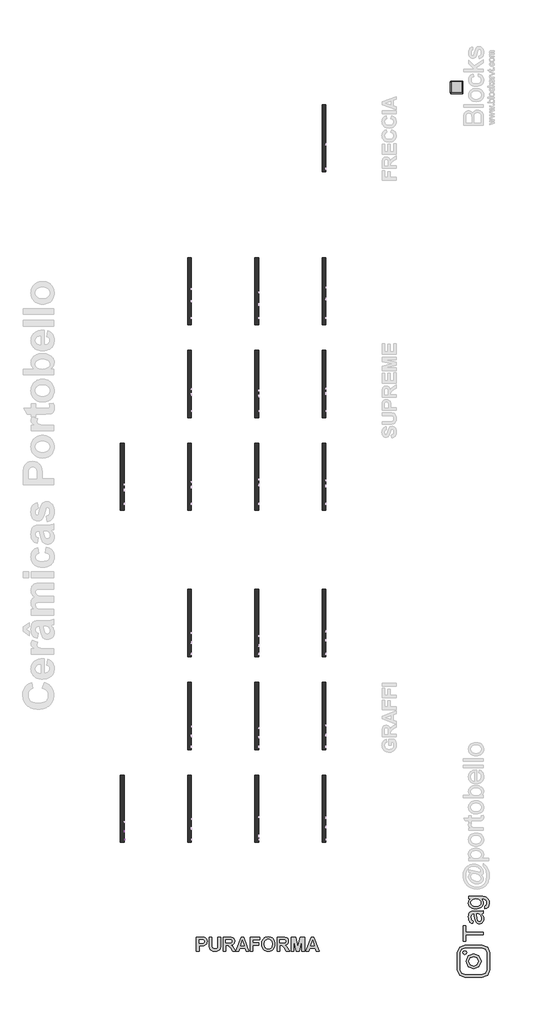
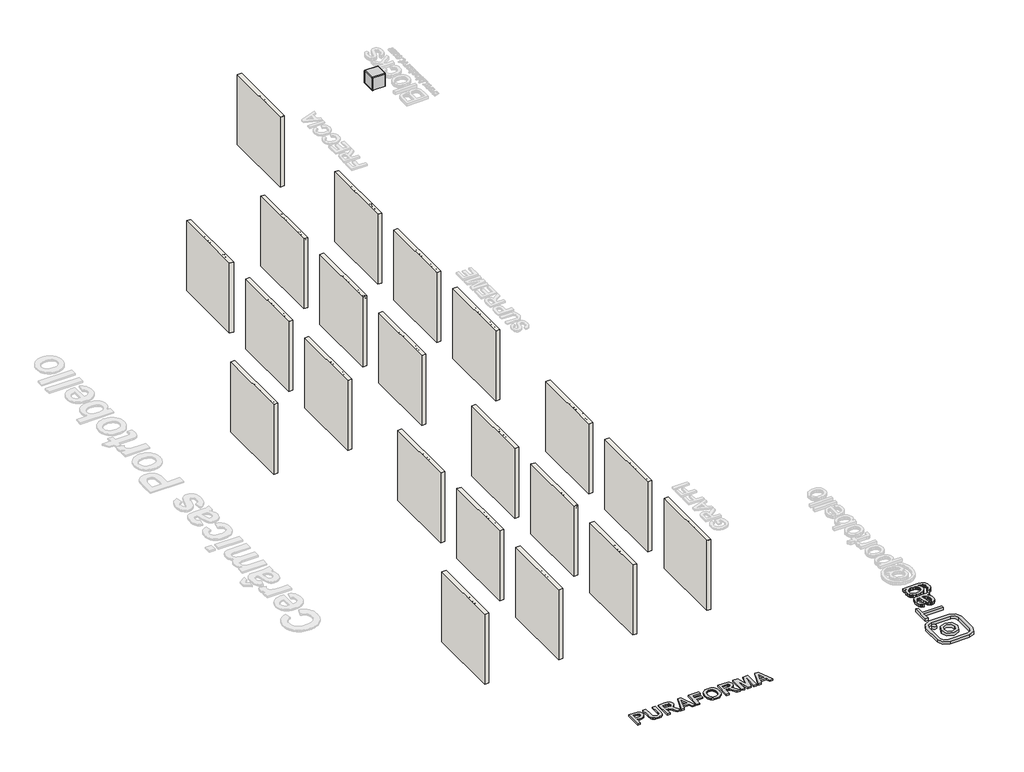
# One storey, part 1 of 17: 21 walls, 5 proxies, 1 furniture element.
"""IFC4 building model written with IfcOpenShell, lengths in millimetres."""

from ifc_helpers import new_model, si_unit, frame, origin, origin_with_axes, place, context, project, spatial, polyline, outline, extrude, transform, mapped, element, save
from components import generic_models_d67f6705, branco_22256ad2

model = new_model("IFC4")

# Units and contexts
model_context = context("Model", 3, world=origin())
ifc_project = project(units=[si_unit("LENGTHUNIT", "METRE", prefix="MILLI")], contexts=[model_context])

# Site, building, storey
site = spatial("IfcSite", under=ifc_project)
building = spatial("IfcBuilding", under=site)
storey = spatial("IfcBuildingStorey", under=building, Name="PORTOBELLO - SHOWROOM", Elevation=0.0)

# Proxies
placement = place(None, origin())
generic_models_shape = generic_models_d67f6705(model_context)
element("IfcBuildingElementProxy", 1, Name="Blks_Instagram1 : Único", ObjectType="Blks_Instagram1 : Único", at=placement, inside=storey, context=model_context, shape_type="MappedRepresentation", body=[
    mapped(generic_models_shape, transform((-1683.1200562, -12511.2406298, 0.0), x_axis=(-1.0, 0.0, 0.0), y_axis=(0.0, -1.0, 0.0), z_axis=(0.0, 0.0, 1.0))),
])
element("IfcBuildingElementProxy", 2, Name="10mm Arial", ObjectType="10mm Arial", at=placement, inside=storey, context=model_context, shape_type="SweptSolid", body=[
    extrude(outline(polyline([(-7644.9270675, 2518.4745677), (-7644.9270675, 2618.9308778), (-7607.6974096, 2618.9308778), (-7592.6878242, 2617.9743846), (-7580.4864047, 2613.2777578), (-7572.5769418, 2603.5656731), (-7569.5848349, 2589.8682002), (-7571.6051202, 2578.0285313), (-7577.6659761, 2568.1631625), (-7588.9998072, 2561.5044984), (-7606.8390183, 2559.2849437), (-7632.3700287, 2559.2849437), (-7632.3700287, 2518.4745677), (-7644.9270675, 2518.4745677)]), holes=[polyline([(-7632.3700287, 2571.8419824), (-7606.1032543, 2571.8419824), (-7587.6110527, 2576.4527701), (-7583.5091684, 2582.0016569), (-7582.1418737, 2589.4267418), (-7585.3669725, 2599.8255395), (-7593.8405211, 2605.5154477), (-7606.3975599, 2606.373839), (-7632.3700287, 2606.373839), (-7632.3700287, 2571.8419824)])]), frame((-15722.2794626, 0.0, 0.0), z_axis=(1.0, 0.0, 0.0), x_axis=(0.0, 1.0, 0.0)), (0.0, 0.0, 1.0), 20.0),
    extrude(outline(polyline([(-15702.2794626, -7541.3314977), (-15702.2794626, -7553.8885364), (-15722.2794626, -7553.8885364), (-15722.2794626, -7541.3314977), (-15702.2794626, -7541.3314977)])), frame((0.0, 0.0, 2518.4745677), z_axis=(0.0, 0.0, 1.0), x_axis=(1.0, 0.0, 0.0)), (0.0, 0.0, 1.0), 73.7726028),
    extrude(outline(polyline([(-15702.2794626, -7541.3314977), (-15702.2794626, -7553.8885364), (-15722.2794626, -7553.8885364), (-15722.2794626, -7541.3314977), (-15702.2794626, -7541.3314977)])), frame((0.0, 0.0, 2606.373839), z_axis=(0.0, 0.0, 1.0), x_axis=(1.0, 0.0, 0.0)), (0.0, 0.0, 1.0), 12.5570388),
    extrude(outline(polyline([(-7522.4959395, 2518.4745677), (-7522.4959395, 2592.2471704), (-7509.9389008, 2592.2471704), (-7509.9389008, 2581.9464746), (-7500.3371807, 2590.8492188), (-7487.2283189, 2593.8168003), (-7475.3702559, 2591.4255673), (-7467.276852, 2585.1470479), (-7463.512193, 2575.9132098), (-7462.8500054, 2563.773104), (-7462.8500054, 2518.4745677), (-7475.4070441, 2518.4745677), (-7475.4070441, 2562.0808468), (-7476.8540467, 2573.1908831), (-7481.9676064, 2579.0647323), (-7490.5883078, 2581.2597615), (-7504.2122044, 2576.3301428), (-7508.5072267, 2569.1871007), (-7509.9389008, 2557.6172119), (-7509.9389008, 2518.4745677), (-7522.4959395, 2518.4745677)])), frame((-15722.2794626, 0.0, 0.0), z_axis=(1.0, 0.0, 0.0), x_axis=(0.0, 1.0, 0.0)), (0.0, 0.0, 1.0), 20.0),
    extrude(outline(polyline([(-7393.9334449, 2540.4493855), (-7381.6216608, 2538.8797557), (-7386.0577046, 2529.602998), (-7393.1363673, 2522.6684224), (-7402.6982335, 2518.345809), (-7414.5838876, 2516.9049378), (-7429.3175615, 2519.391207), (-7440.6544583, 2526.8500144), (-7447.8833395, 2538.7969822), (-7450.2929666, 2554.7477324), (-7447.8588141, 2571.2349771), (-7440.5563565, 2583.5651553), (-7429.3727438, 2591.253889), (-7415.2951261, 2593.8168003), (-7401.6559012, 2591.2600204), (-7390.757397, 2583.5896808), (-7383.6112893, 2571.2840281), (-7381.2292534, 2554.8213088), (-7381.3028298, 2551.4367944), (-7437.7359278, 2551.4367944), (-7435.5623584, 2542.0374095), (-7430.513178, 2535.1273593), (-7423.2260488, 2530.8783223), (-7414.3386329, 2529.4619766), (-7402.0268488, 2532.0862015), (-7393.9334449, 2540.4493855)]), holes=[polyline([(-7437.7359278, 2563.9938332), (-7393.7862921, 2563.9938332), (-7398.8140127, 2575.3736496), (-7406.1348644, 2579.7882335), (-7415.3441771, 2581.2597615), (-7430.8074836, 2576.5631347), (-7435.672723, 2571.0724959), (-7437.7359278, 2563.9938332)])]), frame((-15722.2794626, 0.0, 0.0), z_axis=(1.0, 0.0, 0.0), x_axis=(0.0, 1.0, 0.0)), (0.0, 0.0, 1.0), 20.0),
    extrude(outline(polyline([(-7280.7729432, 2557.7153138), (-7280.7729432, 2570.2723526), (-7239.9625672, 2570.2723526), (-7239.9625672, 2532.7238636), (-7260.1102378, 2520.8780634), (-7281.4106053, 2516.9049378), (-7295.4974201, 2518.4837647), (-7308.2292028, 2523.2202454), (-7318.8058102, 2530.948833), (-7326.4270988, 2541.5039806), (-7331.0348208, 2554.1652526), (-7332.5707281, 2568.2122134), (-7331.0409522, 2582.3603418), (-7326.4516243, 2595.5213202), (-7318.9928168, 2606.5608457), (-7308.8546022, 2614.3446156), (-7296.5060299, 2618.9615346), (-7282.4161495, 2620.5005077), (-7262.7712509, 2616.9320523), (-7249.0002016, 2606.9992384), (-7241.4095697, 2590.383235), (-7252.9855899, 2587.121348), (-7258.7122862, 2598.7341563), (-7268.4979473, 2605.4296086), (-7282.6123532, 2607.9434689), (-7298.6887964, 2605.2334049), (-7309.6271544, 2598.1210196), (-7316.0896148, 2588.4457231), (-7320.0136894, 2568.7272482), (-7315.2925371, 2546.8382695), (-7301.558276, 2533.7416705), (-7282.4161495, 2529.4619766), (-7265.2360603, 2532.6870754), (-7252.519606, 2539.5664687), (-7252.519606, 2557.7153138), (-7280.7729432, 2557.7153138)])), frame((-15722.2794626, 0.0, 0.0), z_axis=(1.0, 0.0, 0.0), x_axis=(0.0, 1.0, 0.0)), (0.0, 0.0, 1.0), 20.0),
    extrude(outline(polyline([(-7221.1270091, 2518.4745677), (-7221.1270091, 2592.2471704), (-7210.1396001, 2592.2471704), (-7210.1396001, 2581.3333379), (-7202.3405019, 2591.3887791), (-7194.4923526, 2593.8168003), (-7181.8862629, 2589.9417766), (-7186.0801177, 2578.6845875), (-7194.9092855, 2581.2597615), (-7202.0094081, 2578.7826894), (-7206.5343566, 2571.9155588), (-7208.5699703, 2557.24933), (-7208.5699703, 2518.4745677), (-7221.1270091, 2518.4745677)])), frame((-15722.2794626, 0.0, 0.0), z_axis=(1.0, 0.0, 0.0), x_axis=(0.0, 1.0, 0.0)), (0.0, 0.0, 1.0), 20.0),
    extrude(outline(polyline([(-7126.9492183, 2527.8923467), (-7139.1261123, 2519.3820099), (-7152.5783306, 2516.9049378), (-7163.0721646, 2518.3948599), (-7170.8130149, 2522.8646261), (-7175.5862838, 2529.6520489), (-7177.1773734, 2538.0949407), (-7174.7738777, 2548.0277546), (-7168.4585701, 2555.2382417), (-7159.6661904, 2559.3585201), (-7148.8014088, 2561.246981), (-7127.0227947, 2565.563463), (-7126.9492183, 2568.3593662), (-7130.4073091, 2577.6299925), (-7144.288723, 2581.2597615), (-7156.9929146, 2578.8440031), (-7163.0507048, 2570.2723526), (-7175.6077435, 2571.8419824), (-7170.1753527, 2584.1047156), (-7159.2369948, 2591.2906772), (-7142.6700422, 2593.8168003), (-7127.4519904, 2591.5849828), (-7118.8558144, 2585.9809138), (-7115.0053162, 2577.4583142), (-7114.3921795, 2566.4709053), (-7114.3921795, 2550.8481832), (-7113.7545174, 2529.0327809), (-7111.2529198, 2518.4745677), (-7123.8099586, 2518.4745677), (-7126.9492183, 2527.8923467)]), holes=[polyline([(-7126.9492183, 2553.0064243), (-7147.2072535, 2549.1559261), (-7158.0107214, 2547.1203124), (-7162.903552, 2543.8093744), (-7164.6203346, 2538.9778575), (-7160.880201, 2532.1843033), (-7149.9050548, 2529.4619766), (-7137.2008632, 2532.4663462), (-7129.0093575, 2539.738147), (-7127.0227947, 2549.4502317), (-7126.9492183, 2553.0064243)])]), frame((-15722.2794626, 0.0, 0.0), z_axis=(1.0, 0.0, 0.0), x_axis=(0.0, 1.0, 0.0)), (0.0, 0.0, 1.0), 20.0),
    extrude(outline(polyline([(-7093.9869915, 2518.4745677), (-7093.9869915, 2579.6901317), (-7104.9744005, 2579.6901317), (-7104.9744005, 2592.2471704), (-7093.9869915, 2592.2471704), (-7093.9869915, 2599.6783867), (-7092.6626164, 2610.1507609), (-7086.2369442, 2617.6310281), (-7073.5818035, 2620.5005077), (-7062.1284108, 2619.1270815), (-7063.9678207, 2607.3548577), (-7071.2028333, 2607.9434689), (-7079.1122962, 2605.8588043), (-7081.4299528, 2598.0842314), (-7081.4299528, 2592.2471704), (-7067.3032842, 2592.2471704), (-7067.3032842, 2579.6901317), (-7081.4299528, 2579.6901317), (-7081.4299528, 2518.4745677), (-7093.9869915, 2518.4745677)])), frame((-15722.2794626, 0.0, 0.0), z_axis=(1.0, 0.0, 0.0), x_axis=(0.0, 1.0, 0.0)), (0.0, 0.0, 1.0), 20.0),
    extrude(outline(polyline([(-7053.1766155, 2518.4745677), (-7053.1766155, 2579.6901317), (-7064.1640245, 2579.6901317), (-7064.1640245, 2592.2471704), (-7053.1766155, 2592.2471704), (-7053.1766155, 2599.6783867), (-7051.8522404, 2610.1507609), (-7045.4265682, 2617.6310281), (-7032.7714275, 2620.5005077), (-7021.3180348, 2619.1270815), (-7023.1574447, 2607.3548577), (-7030.3924573, 2607.9434689), (-7038.3019202, 2605.8588043), (-7040.6195768, 2598.0842314), (-7040.6195768, 2592.2471704), (-7026.4929082, 2592.2471704), (-7026.4929082, 2579.6901317), (-7040.6195768, 2579.6901317), (-7040.6195768, 2518.4745677), (-7053.1766155, 2518.4745677)])), frame((-15722.2794626, 0.0, 0.0), z_axis=(1.0, 0.0, 0.0), x_axis=(0.0, 1.0, 0.0)), (0.0, 0.0, 1.0), 20.0),
    extrude(outline(polyline([(-15702.2794626, -7002.9484605), (-15702.2794626, -7015.5054992), (-15722.2794626, -7015.5054992), (-15722.2794626, -7002.9484605), (-15702.2794626, -7002.9484605)])), frame((0.0, 0.0, 2606.373839), z_axis=(0.0, 0.0, 1.0), x_axis=(1.0, 0.0, 0.0)), (0.0, 0.0, 1.0), 12.5570388),
    extrude(outline(polyline([(-15702.2794626, -7002.9484605), (-15702.2794626, -7015.5054992), (-15722.2794626, -7015.5054992), (-15722.2794626, -7002.9484605), (-15702.2794626, -7002.9484605)])), frame((0.0, 0.0, 2518.4745677), z_axis=(0.0, 0.0, 1.0), x_axis=(1.0, 0.0, 0.0)), (0.0, 0.0, 1.0), 73.7726028),
])
element("IfcBuildingElementProxy", 3, Name="10mm Arial", ObjectType="10mm Arial", at=placement, inside=storey, context=model_context, shape_type="SweptSolid", body=[
    extrude(outline(polyline([(-7608.8255811, 2393.4745677), (-7608.8255811, 2417.0190154), (-7654.3448466, 2417.0190154), (-7654.3448466, 2429.5760541), (-7605.6863214, 2492.361248), (-7596.2685423, 2492.361248), (-7596.2685423, 2429.5760541), (-7583.7115035, 2429.5760541), (-7583.7115035, 2417.0190154), (-7596.2685423, 2417.0190154), (-7596.2685423, 2393.4745677), (-7608.8255811, 2393.4745677)]), holes=[polyline([(-7608.8255811, 2429.5760541), (-7608.8255811, 2468.3753419), (-7638.8938028, 2429.5760541), (-7608.8255811, 2429.5760541)])]), frame((-15722.2794626, 0.0, 0.0), z_axis=(1.0, 0.0, 0.0), x_axis=(0.0, 1.0, 0.0)), (0.0, 0.0, 1.0), 20.0),
    extrude(outline(polyline([(-7572.7240946, 2420.158275), (-7560.1670558, 2421.7279049), (-7553.8394855, 2408.7907214), (-7540.718361, 2404.4619766), (-7531.7175149, 2405.9672271), (-7524.9730116, 2410.4829786), (-7520.7607628, 2417.4880649), (-7519.3566798, 2426.4613199), (-7524.6173924, 2441.3728034), (-7531.2239399, 2445.4746877), (-7540.5221573, 2446.8419824), (-7551.5463544, 2444.6592159), (-7558.597426, 2438.9938332), (-7571.1544648, 2440.563463), (-7560.1670558, 2492.361248), (-7511.5085306, 2492.361248), (-7511.5085306, 2479.8042092), (-7550.0135128, 2479.8042092), (-7555.4091154, 2452.1394832), (-7546.438926, 2457.5841367), (-7537.0395411, 2459.3990212), (-7525.3041054, 2457.1488097), (-7515.5552325, 2450.3981751), (-7508.9885389, 2440.1097419), (-7506.7996411, 2427.2461348), (-7508.7678097, 2414.6890961), (-7514.6723158, 2403.9469418), (-7525.9785557, 2394.9154388), (-7540.7674119, 2391.9049378), (-7553.1006558, 2393.839384), (-7562.9261708, 2399.6427224), (-7569.661477, 2408.6405029), (-7572.7240946, 2420.158275)])), frame((-15722.2794626, 0.0, 0.0), z_axis=(1.0, 0.0, 0.0), x_axis=(0.0, 1.0, 0.0)), (0.0, 0.0, 1.0), 20.0),
    extrude(outline(polyline([(-7500.5211217, 2393.4745677), (-7473.6902615, 2430.5815982), (-7498.9514918, 2467.2471704), (-7483.8928555, 2467.2471704), (-7471.7036987, 2449.5643092), (-7465.9892651, 2441.2501761), (-7461.0351209, 2448.0682557), (-7447.1537069, 2467.2471704), (-7432.0460196, 2467.2471704), (-7458.5825742, 2430.5570728), (-7433.0270383, 2393.4745677), (-7448.1102001, 2393.4745677), (-7463.512193, 2415.792742), (-7466.3080961, 2419.8884949), (-7485.4134344, 2393.4745677), (-7500.5211217, 2393.4745677)])), frame((-15722.2794626, 0.0, 0.0), z_axis=(1.0, 0.0, 0.0), x_axis=(0.0, 1.0, 0.0)), (0.0, 0.0, 1.0), 20.0),
    extrude(outline(polyline([(-7378.0899937, 2393.4745677), (-7390.6470324, 2393.4745677), (-7390.6470324, 2471.7598562), (-7402.5418836, 2463.2863076), (-7415.76111, 2456.9464746), (-7415.76111, 2468.8168003), (-7397.3547475, 2480.5644987), (-7386.1833976, 2493.9308778), (-7378.0899937, 2493.9308778), (-7378.0899937, 2393.4745677)])), frame((-15722.2794626, 0.0, 0.0), z_axis=(1.0, 0.0, 0.0), x_axis=(0.0, 1.0, 0.0)), (0.0, 0.0, 1.0), 20.0),
    extrude(outline(polyline([(-7283.9122029, 2406.0316064), (-7283.9122029, 2393.4745677), (-7349.8366565, 2393.4745677), (-7348.4877558, 2402.1320573), (-7340.848073, 2415.4616482), (-7325.1149864, 2430.0175125), (-7303.4467369, 2450.9377353), (-7298.0388715, 2465.1625058), (-7303.1524313, 2476.6772122), (-7316.5065477, 2481.373839), (-7330.4247498, 2476.7875768), (-7335.7099878, 2464.1079107), (-7348.2670266, 2465.6775406), (-7345.2228031, 2477.8237778), (-7338.6407811, 2486.6958652), (-7328.864317, 2492.1221247), (-7316.2367676, 2493.9308778), (-7303.5172476, 2491.9197896), (-7293.7591777, 2485.8865249), (-7287.551169, 2476.873416), (-7285.4818328, 2465.9227952), (-7287.7136502, 2454.0156813), (-7295.1326038, 2441.7038972), (-7313.1220333, 2424.4992826), (-7327.567533, 2412.4204904), (-7333.2329157, 2406.0316064), (-7283.9122029, 2406.0316064)])), frame((-15722.2794626, 0.0, 0.0), z_axis=(1.0, 0.0, 0.0), x_axis=(0.0, 1.0, 0.0)), (0.0, 0.0, 1.0), 20.0),
    extrude(outline(polyline([(-7271.3551641, 2442.8933823), (-7267.6640815, 2471.7966444), (-7256.701198, 2488.4616988), (-7238.3929374, 2493.9308778), (-7223.7267085, 2490.6935163), (-7213.5976909, 2481.3615763), (-7207.711579, 2466.4991437), (-7205.4307106, 2442.8933823), (-7209.0850051, 2414.1127476), (-7220.0111004, 2397.410905), (-7228.24246, 2393.2814296), (-7238.3929374, 2391.9049378), (-7251.4404855, 2394.2961708), (-7261.3487739, 2401.4698697), (-7268.8535666, 2418.4598865), (-7271.3551641, 2442.8933823)]), holes=[polyline([(-7258.7981254, 2442.9179078), (-7257.3265974, 2423.1657104), (-7252.9120135, 2411.7337774), (-7246.3391885, 2406.2799268), (-7238.3929374, 2404.4619766), (-7230.4466863, 2406.2860581), (-7223.8738613, 2411.7583028), (-7219.4592774, 2423.1963672), (-7217.9877494, 2442.9179078), (-7219.4102264, 2462.2255812), (-7223.6776576, 2473.746419), (-7230.2382198, 2479.466984), (-7238.5400902, 2481.373839), (-7246.4005021, 2479.6938446), (-7252.7158097, 2474.6538613), (-7257.2775465, 2462.4156536), (-7258.7981254, 2442.9179078)])]), frame((-15722.2794626, 0.0, 0.0), z_axis=(1.0, 0.0, 0.0), x_axis=(0.0, 1.0, 0.0)), (0.0, 0.0, 1.0), 20.0),
])
element("IfcBuildingElementProxy", 4, Name="550mm Arial", ObjectType="550mm Arial", at=placement, inside=storey, context=model_context, shape_type="SweptSolid", body=[
    extrude(outline(polyline([(-12817.5916958, -12102.6873012), (-12817.5916958, -11541.5446312), (-12636.8068921, -11541.5446312), (-12551.8770026, -11543.6322156), (-12502.7839776, -11549.8949686), (-12479.7553129, -11558.0061035), (-12458.6837585, -11569.8140025), (-12439.5693144, -11585.3186653), (-12422.4119806, -11604.5200921), (-12408.2555493, -11627.0964469), (-12398.1438127, -11652.7258937), (-12392.0767707, -11681.4084327), (-12390.0544234, -11713.1440638), (-12394.8036778, -11760.4104525), (-12409.0514409, -11799.5004692), (-12430.6231457, -11830.7446481), (-12457.3442252, -11854.4735234), (-12486.8661471, -11871.0872155), (-12516.8403788, -11880.9858445), (-12567.1163683, -11886.9354599), (-12635.8326861, -11888.918665), (-12710.7073777, -11888.918665), (-12710.7073777, -12102.6873012), (-12817.5916958, -12102.6873012)]), holes=[polyline([(-12710.7073777, -11639.5219228), (-12710.7073777, -11790.9413734), (-12644.3221957, -11790.9413734), (-12584.530301, -11788.8537891), (-12548.5020746, -11782.5910361), (-12526.9651629, -11771.8573733), (-12510.647212, -11756.3570596), (-12500.3658591, -11737.0295079), (-12496.9387415, -11714.8141312), (-12501.757582, -11688.2670171), (-12516.2141035, -11666.7996915), (-12538.0119633, -11651.4211535), (-12564.8548186, -11643.1404023), (-12652.1158439, -11639.5219228), (-12710.7073777, -11639.5219228)])]), origin_with_axes(), (0.0, 0.0, 1.0), 50.0),
    extrude(outline(polyline([(-12300.9841583, -11541.5446312), (-12194.0998402, -11541.5446312), (-12194.0998402, -11844.2443602), (-12192.9516688, -11903.6709277), (-12189.5071547, -11937.7681385), (-12176.1118218, -11968.6469902), (-12151.7914643, -11992.8107789), (-12135.5344013, -12001.9135164), (-12116.5460821, -12008.4154718), (-12070.3756751, -12013.6170361), (-12024.2574578, -12008.7112129), (-12006.0650301, -12002.5789339), (-11991.1170565, -11993.9937433), (-11969.7715066, -11972.1262974), (-11959.0378438, -11945.7705451), (-11954.9670543, -11907.7243206), (-11953.6101245, -11850.7854578), (-11953.6101245, -11541.5446312), (-11846.7258064, -11541.5446312), (-11846.7258064, -11835.8940228), (-11849.0569423, -11922.0764629), (-11856.0503498, -11978.5456192), (-11869.3065104, -12016.9397745), (-11890.4259052, -12048.8972114), (-11919.7042756, -12074.6962745), (-11957.4373625, -12094.6153084), (-12005.8171295, -12107.3495729), (-12067.0355402, -12111.5943277), (-12138.7440622, -12106.9668491), (-12167.2134936, -12101.1825008), (-12190.7597053, -12093.0844132), (-12228.5101887, -12071.791053), (-12257.4232318, -12044.9308012), (-12277.742386, -12014.5564491), (-12289.7112029, -11982.7207879), (-12298.1659195, -11923.085462), (-12300.9841583, -11840.4867084), (-12300.9841583, -11541.5446312)])), origin_with_axes(), (0.0, 0.0, 1.0), 50.0),
    extrude(outline(polyline([(-11739.8414883, -12102.6873012), (-11739.8414883, -11541.5446312), (-11503.8052859, -11541.5446312), (-11426.9125961, -11545.3370761), (-11374.375057, -11556.7144107), (-11355.2040741, -11565.7780061), (-11338.0510895, -11577.7990125), (-11322.916103, -11592.7774302), (-11309.7991148, -11610.7132589), (-11299.2046243, -11630.832353), (-11291.637131, -11652.3605665), (-11287.0966351, -11675.2978994), (-11285.5831365, -11699.6443517), (-11287.7707509, -11729.992609), (-11294.3335941, -11757.5748171), (-11305.2716662, -11782.3909759), (-11320.5849672, -11804.4410855), (-11340.2561004, -11823.1945514), (-11364.2676695, -11838.1207795), (-11392.6196742, -11849.2197695), (-11425.3121148, -11856.4915216), (-11394.3114874, -11878.828674), (-11369.2256823, -11903.2534108), (-11343.2700503, -11938.6379653), (-11309.6599425, -11993.8545711), (-11241.0480039, -12102.6873012), (-11365.8855473, -12102.6873012), (-11447.1621642, -11974.5096229), (-11510.9726588, -11898.4519668), (-11528.6823326, -11885.2479959), (-11547.4357985, -11876.9498481), (-11572.3302418, -11872.565921), (-11608.4628474, -11871.104612), (-11632.9571702, -11871.104612), (-11632.9571702, -12102.6873012), (-11739.8414883, -12102.6873012)]), holes=[polyline([(-11632.9571702, -11773.1273204), (-11544.8611112, -11773.1273204), (-11475.3271562, -11771.5094426), (-11437.907207, -11766.655809), (-11418.8753964, -11757.8531617), (-11404.5058576, -11744.3882427), (-11395.4770553, -11726.6263793), (-11392.4674545, -11704.9328987), (-11396.4338648, -11680.9082823), (-11408.3330955, -11661.9982475), (-11427.4692853, -11648.6551043), (-11453.1465726, -11641.3311626), (-11539.9900811, -11639.5219228), (-11632.9571702, -11639.5219228), (-11632.9571702, -11773.1273204)])]), origin_with_axes(), (0.0, 0.0, 1.0), 50.0),
    extrude(outline(polyline([(-10706.6264135, -12102.6873012), (-10818.9384508, -12102.6873012), (-10862.9168942, -11977.9889301), (-11074.7371183, -11977.9889301), (-11118.1588726, -12102.6873012), (-11232.1409774, -12102.6873012), (-11027.5577123, -11541.5446312), (-10913.4364352, -11541.5446312), (-10706.6264135, -12102.6873012)]), holes=[polyline([(-10897.1532774, -11880.0116385), (-10969.3836954, -11675.1500288), (-11040.6399075, -11880.0116385), (-10897.1532774, -11880.0116385)])]), origin_with_axes(), (0.0, 0.0, 1.0), 50.0),
    extrude(outline(polyline([(-10653.1842544, -12102.6873012), (-10653.1842544, -11541.5446312), (-10270.1821146, -11541.5446312), (-10270.1821146, -11639.5219228), (-10546.2999363, -11639.5219228), (-10546.2999363, -11764.2202939), (-10305.8102206, -11764.2202939), (-10305.8102206, -11862.1975855), (-10546.2999363, -11862.1975855), (-10546.2999363, -12102.6873012), (-10653.1842544, -12102.6873012)])), origin_with_axes(), (0.0, 0.0, 1.0), 50.0),
    extrude(outline(polyline([(-10198.9259025, -11825.5952734), (-10197.351516, -11784.5220516), (-10192.6283564, -11746.8933439), (-10184.7564238, -11712.7091504), (-10173.7357182, -11681.969471), (-10151.5203415, -11641.4181452), (-10122.4507296, -11605.2159535), (-10088.4057084, -11575.5896525), (-10051.2641037, -11554.7659987), (-10024.5256277, -11545.0848263), (-9995.8039465, -11538.1697032), (-9932.4109688, -11532.6376047), (-9874.5674861, -11537.4346996), (-9822.812791, -11551.8259841), (-9777.1468836, -11575.8114583), (-9737.5697639, -11609.3911222), (-9705.6036287, -11651.5124853), (-9682.770675, -11701.1230573), (-9669.0709028, -11758.2228381), (-9664.5043121, -11822.8118277), (-9669.0361097, -11886.9615547), (-9682.6315027, -11943.7177539), (-9705.2904911, -11993.0804252), (-9737.0130747, -12035.0495687), (-9776.3292464, -12068.5379007), (-9821.7689989, -12092.4581379), (-9873.332332, -12106.8102803), (-9931.0192459, -12111.5943277), (-9989.3150385, -12106.8320259), (-10041.313285, -12092.5451206), (-10087.0139855, -12068.7336118), (-10126.4171399, -12035.3974994), (-10158.1397235, -11993.7110496), (-10180.7987119, -11944.8485287), (-10194.3941049, -11888.8099367), (-10198.9259025, -11825.5952734)]), holes=[polyline([(-10092.0415844, -11821.6984493), (-10089.2015999, -11866.0857113), (-10080.6816463, -11904.7495129), (-10066.4817237, -11937.6898541), (-10046.601832, -11964.9067349), (-10022.3467115, -11986.2174917), (-9995.0211023, -12001.4394608), (-9964.6250046, -12010.5726423), (-9931.1584181, -12013.6170361), (-9897.7266248, -12010.594388), (-9867.4349062, -12001.5264435), (-9840.2832624, -11986.4132027), (-9816.2716934, -11965.2546656), (-9796.6353533, -11938.0508322), (-9782.609396, -11904.8017025), (-9774.1938216, -11865.5072765), (-9771.3886302, -11820.1675542), (-9774.1198863, -11775.4584563), (-9782.3136549, -11736.8033529), (-9795.9699357, -11704.2022442), (-9815.088729, -11677.65513), (-9838.7306216, -11657.0750278), (-9865.9562007, -11642.3749547), (-9896.7654662, -11633.5549109), (-9931.1584181, -11630.6148963), (-9965.5861632, -11633.589704), (-9996.4998079, -11642.514127), (-10023.8993524, -11657.3881654), (-10047.7847965, -11678.2118192), (-10067.1471412, -11705.0285797), (-10080.9773875, -11737.8819382), (-10089.2755352, -11776.7718947), (-10092.0415844, -11821.6984493)])]), origin_with_axes(), (0.0, 0.0, 1.0), 50.0),
    extrude(outline(polyline([(-9575.434047, -12102.6873012), (-9575.434047, -11541.5446312), (-9339.3978446, -11541.5446312), (-9262.5051548, -11545.3370761), (-9209.9676156, -11556.7144107), (-9190.7966328, -11565.7780061), (-9173.6436481, -11577.7990125), (-9158.5086617, -11592.7774302), (-9145.3916734, -11610.7132589), (-9134.7971829, -11630.832353), (-9127.2296897, -11652.3605665), (-9122.6891938, -11675.2978994), (-9121.1756951, -11699.6443517), (-9123.3633095, -11729.992609), (-9129.9261528, -11757.5748171), (-9140.8642249, -11782.3909759), (-9156.1775258, -11804.4410855), (-9175.8486591, -11823.1945514), (-9199.8602281, -11838.1207795), (-9228.2122329, -11849.2197695), (-9260.9046735, -11856.4915216), (-9229.904046, -11878.828674), (-9204.8182409, -11903.2534108), (-9178.862609, -11938.6379653), (-9145.2525011, -11993.8545711), (-9076.6405626, -12102.6873012), (-9201.478106, -12102.6873012), (-9282.7547229, -11974.5096229), (-9346.5652174, -11898.4519668), (-9364.2748912, -11885.2479959), (-9383.0283572, -11876.9498481), (-9407.9228004, -11872.565921), (-9444.055406, -11871.104612), (-9468.5497289, -11871.104612), (-9468.5497289, -12102.6873012), (-9575.434047, -12102.6873012)]), holes=[polyline([(-9468.5497289, -11773.1273204), (-9380.4536699, -11773.1273204), (-9310.9197149, -11771.5094426), (-9273.4997656, -11766.655809), (-9254.4679551, -11757.8531617), (-9240.0984162, -11744.3882427), (-9231.069614, -11726.6263793), (-9228.0600132, -11704.9328987), (-9232.0264234, -11680.9082823), (-9243.9256542, -11661.9982475), (-9263.0618439, -11648.6551043), (-9288.7391313, -11641.3311626), (-9375.5826397, -11639.5219228), (-9468.5497289, -11639.5219228), (-9468.5497289, -11773.1273204)])]), origin_with_axes(), (0.0, 0.0, 1.0), 50.0),
    extrude(outline(polyline([(-9014.291377, -12102.6873012), (-9014.291377, -11541.5446312), (-8831.418989, -11541.5446312), (-8742.6270685, -11924.2684265), (-8654.1134926, -11541.5446312), (-8470.9627601, -11541.5446312), (-8470.9627601, -12102.6873012), (-8577.8470782, -12102.6873012), (-8582.3005914, -11660.9544553), (-8679.9995384, -12102.6873012), (-8804.9762541, -12102.6873012), (-8902.9535457, -11660.9544553), (-8907.4070589, -12102.6873012), (-9014.291377, -12102.6873012)])), origin_with_axes(), (0.0, 0.0, 1.0), 50.0),
    extrude(outline(polyline([(-7892.0060371, -12102.6873012), (-8004.3180744, -12102.6873012), (-8048.2965178, -11977.9889301), (-8260.116742, -11977.9889301), (-8303.5384962, -12102.6873012), (-8417.520601, -12102.6873012), (-8212.9373359, -11541.5446312), (-8098.8160588, -11541.5446312), (-7892.0060371, -12102.6873012)]), holes=[polyline([(-8082.532901, -11880.0116385), (-8154.763319, -11675.1500288), (-8226.0195311, -11880.0116385), (-8082.532901, -11880.0116385)])]), origin_with_axes(), (0.0, 0.0, 1.0), 50.0),
])
element("IfcBuildingElementProxy", 5, Name="80mm Arial", ObjectType="80mm Arial", at=placement, inside=storey, context=model_context, shape_type="SweptSolid", body=[
    extrude(outline(polyline([(-1291.4070715, -11443.1133966), (-1990.8721825, -11443.1133966), (-1990.8721825, -11705.4128133), (-2090.7957698, -11705.4128133), (-2090.7957698, -11080.8903927), (-1990.8721825, -11080.8903927), (-1990.8721825, -11343.1898093), (-1291.4070715, -11343.1898093), (-1291.4070715, -11443.1133966)])), origin_with_axes(), (0.0, 0.0, 1.0), 100.0),
    extrude(outline(polyline([(-1366.3497619, -10606.2533531), (-1325.4142689, -10653.9951647), (-1310.2525234, -10678.3966706), (-1298.628112, -10703.1519099), (-1283.8444953, -10754.8457774), (-1278.9166231, -10810.198956), (-1281.880665, -10854.6900796), (-1290.7727909, -10893.7044344), (-1305.5930007, -10927.2420202), (-1326.3412944, -10955.3028372), (-1351.70032, -10977.4599656), (-1380.3527256, -10993.286486), (-1412.2985111, -11002.7823982), (-1447.5376766, -11005.9477022), (-1488.9610778, -11001.1662025), (-1526.5787955, -10986.8217031), (-1558.7807328, -10964.6950689), (-1583.9567929, -10936.5671646), (-1602.9852104, -10903.511388), (-1616.7442199, -10866.6011371), (-1631.7717907, -10780.1438145), (-1647.5800145, -10677.9758498), (-1666.1205238, -10606.8388428), (-1688.369135, -10606.2533531), (-1712.5937743, -10607.9732293), (-1732.9639391, -10613.1328579), (-1749.4796297, -10621.7322388), (-1762.140846, -10633.7713722), (-1774.7776668, -10654.5806544), (-1783.8039674, -10679.9274824), (-1789.2197478, -10709.811856), (-1791.0250079, -10744.2337754), (-1786.2191127, -10803.7585686), (-1780.2117438, -10826.7878328), (-1771.8014272, -10845.3283422), (-1760.329487, -10860.5632739), (-1745.1372473, -10873.6758052), (-1726.2247079, -10884.6659361), (-1703.5918691, -10893.5336665), (-1716.0823175, -10993.4572538), (-1770.7280293, -10976.1121194), (-1793.6597119, -10964.237655), (-1813.6639457, -10950.2285925), (-1831.1432548, -10933.4811456), (-1846.5001636, -10913.3915279), (-1859.7346719, -10889.9597394), (-1870.8467798, -10863.1857802), (-1885.9231414, -10801.7825406), (-1890.9485952, -10731.3530004), (-1886.5086311, -10663.8021183), (-1873.1887389, -10610.2541998), (-1853.1601097, -10569.8798011), (-1828.5939348, -10541.8494784), (-1798.221653, -10523.2601783), (-1760.7747032, -10511.2088472), (-1726.2308068, -10507.5495361), (-1673.3415643, -10506.3297658), (-1549.02257, -10506.3297658), (-1440.731358, -10505.0612046), (-1375.4248534, -10501.2555211), (-1332.5133324, -10493.7417357), (-1291.4070715, -10481.3488689), (-1291.4070715, -10581.2724562), (-1326.1461311, -10597.2758433), (-1366.3497619, -10606.2533531)]), holes=[polyline([(-1566.1969365, -10606.2533531), (-1549.5592689, -10673.3895133), (-1535.5563053, -10767.4582029), (-1527.8961474, -10819.2984429), (-1519.357755, -10853.4276173), (-1508.2822402, -10875.7982056), (-1493.0107154, -10892.362687), (-1474.7141601, -10902.608758), (-1454.5635538, -10906.0241149), (-1439.0358773, -10904.1639652), (-1424.8499481, -10898.5835158), (-1412.0057662, -10889.2827669), (-1400.5033318, -10876.2617183), (-1391.0257162, -10859.6423473), (-1384.2559907, -10839.5466307), (-1378.8402103, -10788.9261611), (-1384.8170851, -10735.2562656), (-1392.2881785, -10710.7632769), (-1402.7477093, -10687.8315943), (-1429.1679351, -10649.3844327), (-1460.6136148, -10622.6470666), (-1493.0107154, -10610.7908988), (-1537.8982643, -10606.8388428), (-1566.1969365, -10606.2533531)])]), origin_with_axes(), (0.0, 0.0, 1.0), 100.0),
    extrude(outline(polyline([(-1241.4452778, -10393.9157301), (-1228.9548294, -10293.9921428), (-1212.1219985, -10289.7717374), (-1197.7287084, -10282.9654188), (-1185.7749589, -10273.5731871), (-1176.2607502, -10261.5950422), (-1166.5269828, -10242.2128913), (-1159.5742917, -10219.5861513), (-1154.0121389, -10164.5989038), (-1155.5856427, -10133.3971781), (-1160.306154, -10105.9523452), (-1168.1736727, -10082.264405), (-1179.188199, -10062.3333574), (-1193.0447902, -10045.7444806), (-1209.4385038, -10032.0830526), (-1228.3693396, -10021.3490735), (-1249.8372978, -10013.5425433), (-1292.8220051, -10008.1267629), (-1366.3497619, -10006.7118293), (-1333.5623349, -10039.9627691), (-1310.1427441, -10077.0681832), (-1296.0909896, -10118.0280717), (-1291.4070715, -10162.8424345), (-1296.8594449, -10217.6284198), (-1313.2165654, -10265.8642384), (-1325.4844057, -10287.5258352), (-1340.4784328, -10307.5498902), (-1378.6450471, -10342.6853753), (-1424.4352261, -10370.5632267), (-1474.5677876, -10390.4759777), (-1529.0427316, -10402.4236283), (-1587.860058, -10406.4061785), (-1629.0090108, -10404.6192149), (-1668.5356691, -10399.2583242), (-1706.4400328, -10390.3235064), (-1742.722102, -10377.8147614), (-1776.1743039, -10361.9211537), (-1805.5890659, -10342.8317477), (-1830.9663881, -10320.5465434), (-1852.3062705, -10295.0655407), (-1869.2122875, -10266.7973628), (-1881.288014, -10236.1506326), (-1888.5334499, -10203.1253503), (-1890.9485952, -10167.7215159), (-1885.484024, -10120.9921136), (-1869.0903105, -10078.5806985), (-1841.7674546, -10040.4872704), (-1803.5154563, -10006.7118293), (-1878.4581468, -10006.7118293), (-1878.4581468, -9906.788242), (-1371.6191699, -9906.788242), (-1308.1118264, -9908.4959205), (-1254.5944022, -9913.618956), (-1211.0668972, -9922.1573485), (-1177.5293113, -9934.1110979), (-1150.4809038, -9949.7668504), (-1126.4209336, -9969.4112519), (-1105.3494007, -9993.0443025), (-1087.2663052, -10020.6660021), (-1072.751038, -10051.9958036), (-1062.38299, -10086.7531598), (-1056.1621612, -10124.9380707), (-1054.0885516, -10166.5505363), (-1057.0099016, -10215.5060194), (-1065.7739516, -10259.5214326), (-1080.3807016, -10298.5967759), (-1100.8301516, -10332.7320492), (-1127.1466969, -10360.304958), (-1159.3547331, -10379.6932078), (-1197.4542601, -10390.8967984), (-1241.4452778, -10393.9157301)]), holes=[polyline([(-1594.690772, -10306.4825912), (-1545.2839738, -10303.817393), (-1503.0372277, -10295.8217983), (-1467.9505335, -10282.4958072), (-1440.0238912, -10263.8394197), (-1418.720602, -10241.1577899), (-1403.5039669, -10215.7560724), (-1394.3739858, -10187.6342669), (-1391.3306588, -10156.7923735), (-1394.3556892, -10126.2554227), (-1403.4307807, -10098.267792), (-1418.555933, -10072.8294813), (-1439.7311464, -10049.9404906), (-1467.3833403, -10031.0279513), (-1501.9394343, -10017.5189946), (-1543.3994286, -10009.4136206), (-1591.7633231, -10006.7118293), (-1638.1084977, -10009.4929057), (-1678.3914136, -10017.8361349), (-1712.6120708, -10031.7415169), (-1740.7704694, -10051.2090518), (-1762.75683, -10074.5920494), (-1778.4613733, -10100.24382), (-1787.8840993, -10128.1643633), (-1791.0250079, -10158.3536796), (-1787.9328901, -10188.0367911), (-1778.6565366, -10215.4145367), (-1763.1959473, -10240.4869163), (-1741.5511224, -10263.2539299), (-1713.8196435, -10282.1664692), (-1680.0990921, -10295.6754259), (-1640.3894682, -10303.7807999), (-1594.690772, -10306.4825912)])]), origin_with_axes(), (0.0, 0.0, 1.0), 100.0),
])

# Furniture
branco_shape = branco_22256ad2(model_context)
element("IfcFurniture", 6, ObjectType="Blks_Mob_Blocks Revit_Cubo : Branco", at=placement, inside=storey, context=model_context, shape_type="MappedRepresentation", body=[
    mapped(branco_shape, transform((-2360.9821246, 22598.5091464, 0.0), x_axis=(1.0, 0.0, 0.0), y_axis=(0.0, 1.0, 0.0), z_axis=(0.0, 0.0, 1.0))),
])

# Walls
element("IfcWall", 7, ObjectType="PORTOBELLO - VELVET GRAFFI 45X120 MATE RET", at=placement, inside=storey, context=model_context, shape_type="SweptSolid", body=[
    extrude(outline(polyline([(-13022.2794626, -5034.5575081), (-13022.2794626, -7734.5575081), (-13172.2794626, -7734.5575081), (-13172.2794626, -5034.5575081), (-13022.2794626, -5034.5575081)])), frame((0.0, 0.0, 1.0), z_axis=(0.0, 0.0, 1.0), x_axis=(1.0, 0.0, 0.0)), (0.0, 0.0, 1.0), 2699.0),
])
element("IfcWall", 8, ObjectType="PORTOBELLO - VELVET SUPREME 10X20 MATE bold", at=placement, inside=storey, context=model_context, shape_type="SweptSolid", body=[
    extrude(outline(polyline([(-13022.2794626, 8300.4424919), (-13022.2794626, 5600.4424919), (-13172.2794626, 5600.4424919), (-13172.2794626, 8300.4424919), (-13022.2794626, 8300.4424919)])), frame((0.0, 0.0, -18.0), z_axis=(0.0, 0.0, 1.0), x_axis=(1.0, 0.0, 0.0)), (0.0, 0.0, 1.0), 2700.0),
])
element("IfcWall", 9, ObjectType="PORTOBELLO - ALMOND GRAFFI 45X120 MATE RET", at=placement, inside=storey, context=model_context, shape_type="SweptSolid", body=[
    extrude(outline(polyline([(-10322.2794626, -5034.5575081), (-10322.2794626, -7734.5575081), (-10472.2794626, -7734.5575081), (-10472.2794626, -5034.5575081), (-10322.2794626, -5034.5575081)])), frame((0.0, 0.0, 1.0), z_axis=(0.0, 0.0, 1.0), x_axis=(1.0, 0.0, 0.0)), (0.0, 0.0, 1.0), 2699.0),
])
element("IfcWall", 10, ObjectType="PORTOBELLO - BRANCO GRAFFI 45X120 MATE RET", at=placement, inside=storey, context=model_context, shape_type="SweptSolid", body=[
    extrude(outline(polyline([(-7622.2794626, -5034.5575081), (-7622.2794626, -7734.5575081), (-7772.2794626, -7734.5575081), (-7772.2794626, -5034.5575081), (-7622.2794626, -5034.5575081)])), frame((0.0, 0.0, 1.0), z_axis=(0.0, 0.0, 1.0), x_axis=(1.0, 0.0, 0.0)), (0.0, 0.0, 1.0), 2699.0),
])
element("IfcWall", 11, ObjectType="PORTOBELLO - INDIGO GRAFFI 45X120 MATE RET", at=placement, inside=storey, context=model_context, shape_type="SweptSolid", body=[
    extrude(outline(polyline([(-13022.2794626, -1304.5575081), (-13022.2794626, -4004.5575081), (-13172.2794626, -4004.5575081), (-13172.2794626, -1304.5575081), (-13022.2794626, -1304.5575081)])), frame((0.0, 0.0, 1.0), z_axis=(0.0, 0.0, 1.0), x_axis=(1.0, 0.0, 0.0)), (0.0, 0.0, 1.0), 2699.0),
])
element("IfcWall", 12, ObjectType="PORTOBELLO - PINE GRAFFI 45X120 MATE RET", at=placement, inside=storey, context=model_context, shape_type="SweptSolid", body=[
    extrude(outline(polyline([(-15722.2794626, -5034.5575081), (-15722.2794626, -7734.5575081), (-15872.2794626, -7734.5575081), (-15872.2794626, -5034.5575081), (-15722.2794626, -5034.5575081)])), frame((0.0, 0.0, 1.0), z_axis=(0.0, 0.0, 1.0), x_axis=(1.0, 0.0, 0.0)), (0.0, 0.0, 1.0), 2699.0),
])
element("IfcWall", 13, ObjectType="PORTOBELLO - SAGE GRAFFI 45X120 MATE RET", at=placement, inside=storey, context=model_context, shape_type="SweptSolid", body=[
    extrude(outline(polyline([(-10322.2794626, -1304.5575081), (-10322.2794626, -4004.5575081), (-10472.2794626, -4004.5575081), (-10472.2794626, -1304.5575081), (-10322.2794626, -1304.5575081)])), frame((0.0, 0.0, 1.0), z_axis=(0.0, 0.0, 1.0), x_axis=(1.0, 0.0, 0.0)), (0.0, 0.0, 1.0), 2699.0),
])
element("IfcWall", 14, ObjectType="PORTOBELLO - VANILLA GRAFFI 45X120 MATE RET", at=placement, inside=storey, context=model_context, shape_type="SweptSolid", body=[
    extrude(outline(polyline([(-7622.2794626, -1304.5575081), (-7622.2794626, -4004.5575081), (-7772.2794626, -4004.5575081), (-7772.2794626, -1304.5575081), (-7622.2794626, -1304.5575081)])), frame((0.0, 0.0, 1.0), z_axis=(0.0, 0.0, 1.0), x_axis=(1.0, 0.0, 0.0)), (0.0, 0.0, 1.0), 2699.0),
])
element("IfcWall", 15, ObjectType="PORTOBELLO - ALMOND SUPREME 10X20 MATE BOLD", at=placement, inside=storey, context=model_context, shape_type="SweptSolid", body=[
    extrude(outline(polyline([(-10322.2794626, 8300.4424919), (-10322.2794626, 5600.4424919), (-10472.2794626, 5600.4424919), (-10472.2794626, 8300.4424919), (-10322.2794626, 8300.4424919)])), frame((0.0, 0.0, 1.0), z_axis=(0.0, 0.0, 1.0), x_axis=(1.0, 0.0, 0.0)), (0.0, 0.0, 1.0), 2699.0),
])
element("IfcWall", 16, ObjectType="PORTOBELLO - BRANCO SUPREME 10X20 MATE BOLD", at=placement, inside=storey, context=model_context, shape_type="SweptSolid", body=[
    extrude(outline(polyline([(-7622.2794626, 8300.4424919), (-7622.2794626, 5600.4424919), (-7772.2794626, 5600.4424919), (-7772.2794626, 8300.4424919), (-7622.2794626, 8300.4424919)])), frame((0.0, 0.0, 1.0), z_axis=(0.0, 0.0, 1.0), x_axis=(1.0, 0.0, 0.0)), (0.0, 0.0, 1.0), 2699.0),
])
element("IfcWall", 17, ObjectType="PORTOBELLO - INDIGO SUPREME 10X20 MATE BOLD", at=placement, inside=storey, context=model_context, shape_type="SweptSolid", body=[
    extrude(outline(polyline([(-13022.2794626, 12030.4424919), (-13022.2794626, 9330.4424919), (-13172.2794626, 9330.4424919), (-13172.2794626, 12030.4424919), (-13022.2794626, 12030.4424919)])), frame((0.0, 0.0, 1.0), z_axis=(0.0, 0.0, 1.0), x_axis=(1.0, 0.0, 0.0)), (0.0, 0.0, 1.0), 2699.0),
])
element("IfcWall", 18, ObjectType="PORTOBELLO - PINE SUPREME 10X20 MATE BOLD", at=placement, inside=storey, context=model_context, shape_type="SweptSolid", body=[
    extrude(outline(polyline([(-15722.2794626, 8300.4424919), (-15722.2794626, 5600.4424919), (-15872.2794626, 5600.4424919), (-15872.2794626, 8300.4424919), (-15722.2794626, 8300.4424919)])), frame((0.0, 0.0, 1.0), z_axis=(0.0, 0.0, 1.0), x_axis=(1.0, 0.0, 0.0)), (0.0, 0.0, 1.0), 2699.0),
])
element("IfcWall", 19, ObjectType="PORTOBELLO - SAGE SUPREME 10X20 MATE BOLD", at=placement, inside=storey, context=model_context, shape_type="SweptSolid", body=[
    extrude(outline(polyline([(-10322.2794626, 12030.4424919), (-10322.2794626, 9330.4424919), (-10472.2794626, 9330.4424919), (-10472.2794626, 12030.4424919), (-10322.2794626, 12030.4424919)])), frame((0.0, 0.0, 1.0), z_axis=(0.0, 0.0, 1.0), x_axis=(1.0, 0.0, 0.0)), (0.0, 0.0, 1.0), 2699.0),
])
element("IfcWall", 20, ObjectType="PORTOBELLO - VANILLA SUPREME 10X20 MATE BOLD", at=placement, inside=storey, context=model_context, shape_type="SweptSolid", body=[
    extrude(outline(polyline([(-7622.2794626, 12030.4424919), (-7622.2794626, 9330.4424919), (-7772.2794626, 9330.4424919), (-7772.2794626, 12030.4424919), (-7622.2794626, 12030.4424919)])), frame((0.0, 0.0, 1.0), z_axis=(0.0, 0.0, 1.0), x_axis=(1.0, 0.0, 0.0)), (0.0, 0.0, 1.0), 2699.0),
])
element("IfcWall", 21, ObjectType="PORTOBELLO - BRANCO FRECCIA 45X120 MATE RET", at=placement, inside=storey, context=model_context, shape_type="SweptSolid", body=[
    extrude(outline(polyline([(-7622.2794626, 21909.4380216), (-7622.2794626, 19209.4380216), (-7772.2794626, 19209.4380216), (-7772.2794626, 21909.4380216), (-7622.2794626, 21909.4380216)])), frame((0.0, 0.0, 1.0), z_axis=(0.0, 0.0, 1.0), x_axis=(1.0, 0.0, 0.0)), (0.0, 0.0, 1.0), 2699.0),
])
element("IfcWall", 22, ObjectType="PORTOBELLO - MOUSSE SUPREME 10X20 MATE BOLD", at=placement, inside=storey, context=model_context, shape_type="SweptSolid", body=[
    extrude(outline(polyline([(-7622.2794626, 15760.4424919), (-7622.2794626, 13060.4424919), (-7772.2794626, 13060.4424919), (-7772.2794626, 15760.4424919), (-7622.2794626, 15760.4424919)])), frame((0.0, 0.0, -17.0), z_axis=(0.0, 0.0, 1.0), x_axis=(1.0, 0.0, 0.0)), (0.0, 0.0, 1.0), 2700.0),
])
element("IfcWall", 23, ObjectType="PORTOBELLO - CLAY SUPREME 10X20 MATE BOLD", at=placement, inside=storey, context=model_context, shape_type="SweptSolid", body=[
    extrude(outline(polyline([(-10322.2794626, 15760.4424919), (-10322.2794626, 13060.4424919), (-10472.2794626, 13060.4424919), (-10472.2794626, 15760.4424919), (-10322.2794626, 15760.4424919)])), frame((0.0, 0.0, -17.0), z_axis=(0.0, 0.0, 1.0), x_axis=(1.0, 0.0, 0.0)), (0.0, 0.0, 1.0), 2700.0),
])
element("IfcWall", 24, ObjectType="PORTOBELLO - TOFFEE SUPREME 10X20 MATE BOLD", at=placement, inside=storey, context=model_context, shape_type="SweptSolid", body=[
    extrude(outline(polyline([(-13022.2794626, 15760.4424919), (-13022.2794626, 13060.4424919), (-13172.2794626, 13060.4424919), (-13172.2794626, 15760.4424919), (-13022.2794626, 15760.4424919)])), frame((0.0, 0.0, -17.0), z_axis=(0.0, 0.0, 1.0), x_axis=(1.0, 0.0, 0.0)), (0.0, 0.0, 1.0), 2700.0),
])
element("IfcWall", 25, ObjectType="PORTOBELLO - MOUSSE GRAFFI 45X120 MATE RET", at=placement, inside=storey, context=model_context, shape_type="SweptSolid", body=[
    extrude(outline(polyline([(-7622.2794626, 2425.4424919), (-7622.2794626, -274.5575081), (-7772.2794626, -274.5575081), (-7772.2794626, 2425.4424919), (-7622.2794626, 2425.4424919)])), frame((0.0, 0.0, -17.0), z_axis=(0.0, 0.0, 1.0), x_axis=(1.0, 0.0, 0.0)), (0.0, 0.0, 1.0), 2700.0),
])
element("IfcWall", 26, ObjectType="PORTOBELLO - CLAY GRAFFI 45X120 MATE RET", at=placement, inside=storey, context=model_context, shape_type="SweptSolid", body=[
    extrude(outline(polyline([(-10322.2794626, 2425.4424919), (-10322.2794626, -274.5575081), (-10472.2794626, -274.5575081), (-10472.2794626, 2425.4424919), (-10322.2794626, 2425.4424919)])), frame((0.0, 0.0, -17.0), z_axis=(0.0, 0.0, 1.0), x_axis=(1.0, 0.0, 0.0)), (0.0, 0.0, 1.0), 2700.0),
])
element("IfcWall", 27, ObjectType="PORTOBELLO - TOFFEE GRAFFI 45X120 MATE RET", at=placement, inside=storey, context=model_context, shape_type="SweptSolid", body=[
    extrude(outline(polyline([(-13022.2794626, 2425.4424919), (-13022.2794626, -274.5575081), (-13172.2794626, -274.5575081), (-13172.2794626, 2425.4424919), (-13022.2794626, 2425.4424919)])), frame((0.0, 0.0, -17.0), z_axis=(0.0, 0.0, 1.0), x_axis=(1.0, 0.0, 0.0)), (0.0, 0.0, 1.0), 2700.0),
])

save(model, "model.ifc")
